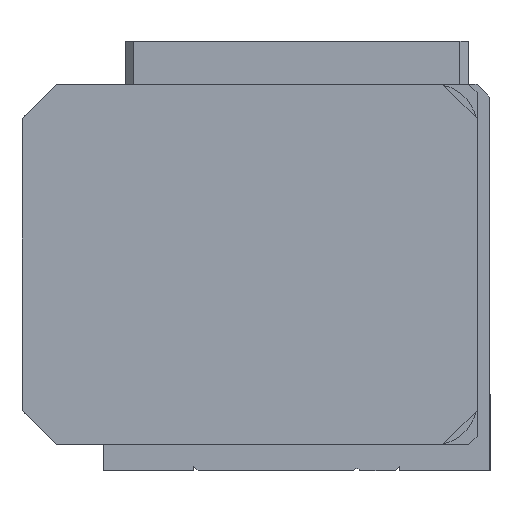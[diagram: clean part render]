
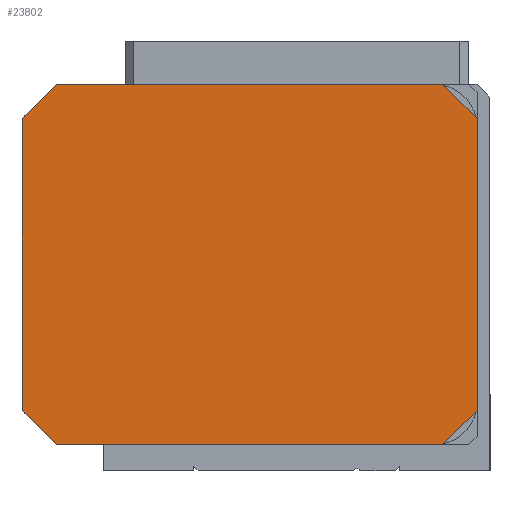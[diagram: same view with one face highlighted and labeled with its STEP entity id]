
A CAD part, left-side view. The second image highlights one B-rep face of the part: STEP entity #23802.
In plain terms, the highlighted planar face has unit normal (-1, 0, 0).
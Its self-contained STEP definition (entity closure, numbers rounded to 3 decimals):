
#23078=CARTESIAN_POINT('',(0.0,-21.,28.));
#23079=VERTEX_POINT('',#23078);
#23086=CARTESIAN_POINT('',(0.0,-21.0,-17.0));
#23087=VERTEX_POINT('',#23086);
#23088=CARTESIAN_POINT('',(0.0,-21.0,-17.0));
#23089=DIRECTION('',(0.0,0.0,1.0));
#23090=VECTOR('',#23089,45.);
#23091=LINE('',#23088,#23090);
#23092=EDGE_CURVE('',#23087,#23079,#23091,.T.);
#23479=CARTESIAN_POINT('',(0.0,21.0,28.));
#23480=VERTEX_POINT('',#23479);
#23487=CARTESIAN_POINT('',(0.0,17.0,32.));
#23488=VERTEX_POINT('',#23487);
#23489=CARTESIAN_POINT('',(0.0,17.0,32.));
#23490=DIRECTION('',(0.0,0.707,-0.707));
#23491=VECTOR('',#23490,5.657);
#23492=LINE('',#23489,#23491);
#23493=EDGE_CURVE('',#23488,#23480,#23492,.T.);
#23520=CARTESIAN_POINT('',(0.0,17.,-21.0));
#23521=VERTEX_POINT('',#23520);
#23528=CARTESIAN_POINT('',(0.0,21.0,-17.0));
#23529=VERTEX_POINT('',#23528);
#23530=CARTESIAN_POINT('',(0.0,21.0,-17.0));
#23531=DIRECTION('',(0.0,-0.707,-0.707));
#23532=VECTOR('',#23531,5.657);
#23533=LINE('',#23530,#23532);
#23534=EDGE_CURVE('',#23529,#23521,#23533,.T.);
#23576=CARTESIAN_POINT('',(0.0,-17.,-21.0));
#23577=VERTEX_POINT('',#23576);
#23578=CARTESIAN_POINT('',(0.0,-17.,-21.0));
#23579=DIRECTION('',(0.0,-0.707,0.707));
#23580=VECTOR('',#23579,5.657);
#23581=LINE('',#23578,#23580);
#23582=EDGE_CURVE('',#23577,#23087,#23581,.T.);
#23609=CARTESIAN_POINT('',(0.0,-17.,32.));
#23610=VERTEX_POINT('',#23609);
#23617=CARTESIAN_POINT('',(0.0,-21.,28.));
#23618=DIRECTION('',(0.0,0.707,0.707));
#23619=VECTOR('',#23618,5.657);
#23620=LINE('',#23617,#23619);
#23621=EDGE_CURVE('',#23079,#23610,#23620,.T.);
#23666=CARTESIAN_POINT('',(0.0,21.0,28.));
#23667=DIRECTION('',(0.0,0.0,-1.0));
#23668=VECTOR('',#23667,45.);
#23669=LINE('',#23666,#23668);
#23670=EDGE_CURVE('',#23480,#23529,#23669,.T.);
#23777=CARTESIAN_POINT('',(0.,0.0,32.));
#23778=DIRECTION('',(-1.0,0.0,0.0));
#23779=DIRECTION('',(0.0,0.0,1.0));
#23780=AXIS2_PLACEMENT_3D('',#23777,#23778,#23779);
#23781=PLANE('',#23780);
#23782=ORIENTED_EDGE('',*,*,#23493,.T.);
#23783=ORIENTED_EDGE('',*,*,#23670,.T.);
#23784=ORIENTED_EDGE('',*,*,#23534,.T.);
#23785=CARTESIAN_POINT('',(0.0,17.,-21.0));
#23786=DIRECTION('',(0.0,-1.0,0.0));
#23787=VECTOR('',#23786,34.);
#23788=LINE('',#23785,#23787);
#23789=EDGE_CURVE('',#23521,#23577,#23788,.T.);
#23790=ORIENTED_EDGE('',*,*,#23789,.T.);
#23791=ORIENTED_EDGE('',*,*,#23582,.T.);
#23792=ORIENTED_EDGE('',*,*,#23092,.T.);
#23793=ORIENTED_EDGE('',*,*,#23621,.T.);
#23794=CARTESIAN_POINT('',(0.0,-17.,32.));
#23795=DIRECTION('',(0.0,1.0,0.0));
#23796=VECTOR('',#23795,34.);
#23797=LINE('',#23794,#23796);
#23798=EDGE_CURVE('',#23610,#23488,#23797,.T.);
#23799=ORIENTED_EDGE('',*,*,#23798,.T.);
#23800=EDGE_LOOP('',(#23782,#23783,#23784,#23790,#23791,#23792,#23793,#23799));
#23801=FACE_OUTER_BOUND('',#23800,.T.);
#23802=ADVANCED_FACE('',(#23801),#23781,.T.);
